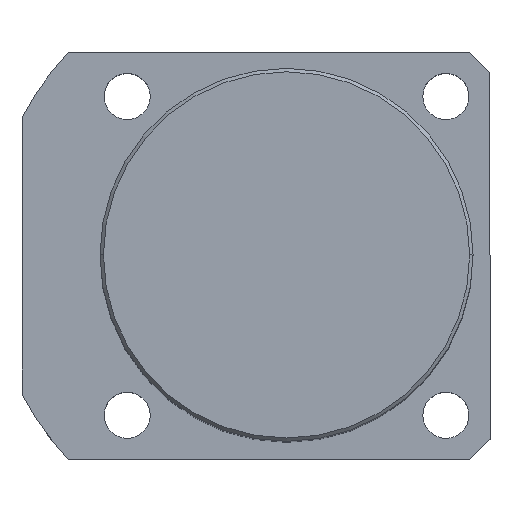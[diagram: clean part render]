
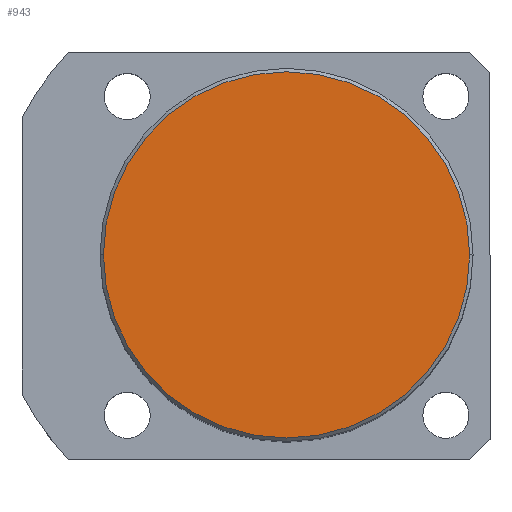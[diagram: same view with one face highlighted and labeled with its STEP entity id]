
A CAD part, top view. The second image highlights one B-rep face of the part: STEP entity #943.
In plain terms, the highlighted planar face has unit normal (0, 0, 1).
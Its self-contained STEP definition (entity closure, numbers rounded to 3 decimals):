
#81 = CIRCLE ( 'NONE', #1041, 27. ) ;
#99 = CARTESIAN_POINT ( 'NONE',  ( 0., 0., 95. ) ) ;
#222 = ORIENTED_EDGE ( 'NONE', *, *, #1648, .T. ) ;
#591 = AXIS2_PLACEMENT_3D ( 'NONE', #1775, #789, #1922 ) ;
#630 = DIRECTION ( 'NONE',  ( 0., 0., 1. ) ) ;
#638 = VERTEX_POINT ( 'NONE', #2006 ) ;
#761 = PLANE ( 'NONE',  #591 ) ;
#789 = DIRECTION ( 'NONE',  ( 0., 0., 1. ) ) ;
#943 = ADVANCED_FACE ( 'NONE', ( #1534 ), #761, .T. ) ;
#947 = CARTESIAN_POINT ( 'NONE',  ( 27., 0., 95. ) ) ;
#1041 = AXIS2_PLACEMENT_3D ( 'NONE', #99, #630, #1290 ) ;
#1133 = DIRECTION ( 'NONE',  ( 0., 0., 1. ) ) ;
#1290 = DIRECTION ( 'NONE',  ( 1., 0., 0. ) ) ;
#1449 = ORIENTED_EDGE ( 'NONE', *, *, #1540, .T. ) ;
#1534 = FACE_OUTER_BOUND ( 'NONE', #1908, .T. ) ;
#1540 = EDGE_CURVE ( 'NONE', #1557, #638, #81, .T. ) ;
#1557 = VERTEX_POINT ( 'NONE', #947 ) ;
#1644 = DIRECTION ( 'NONE',  ( 1., 0., 0. ) ) ;
#1648 = EDGE_CURVE ( 'NONE', #638, #1557, #2113, .T. ) ;
#1775 = CARTESIAN_POINT ( 'NONE',  ( 0., 0., 95. ) ) ;
#1802 = CARTESIAN_POINT ( 'NONE',  ( 0., 0., 95. ) ) ;
#1827 = AXIS2_PLACEMENT_3D ( 'NONE', #1802, #1133, #1644 ) ;
#1908 = EDGE_LOOP ( 'NONE', ( #222, #1449 ) ) ;
#1922 = DIRECTION ( 'NONE',  ( 1., 0., 0. ) ) ;
#2006 = CARTESIAN_POINT ( 'NONE',  ( -27., 0., 95. ) ) ;
#2113 = CIRCLE ( 'NONE', #1827, 27. ) ;
